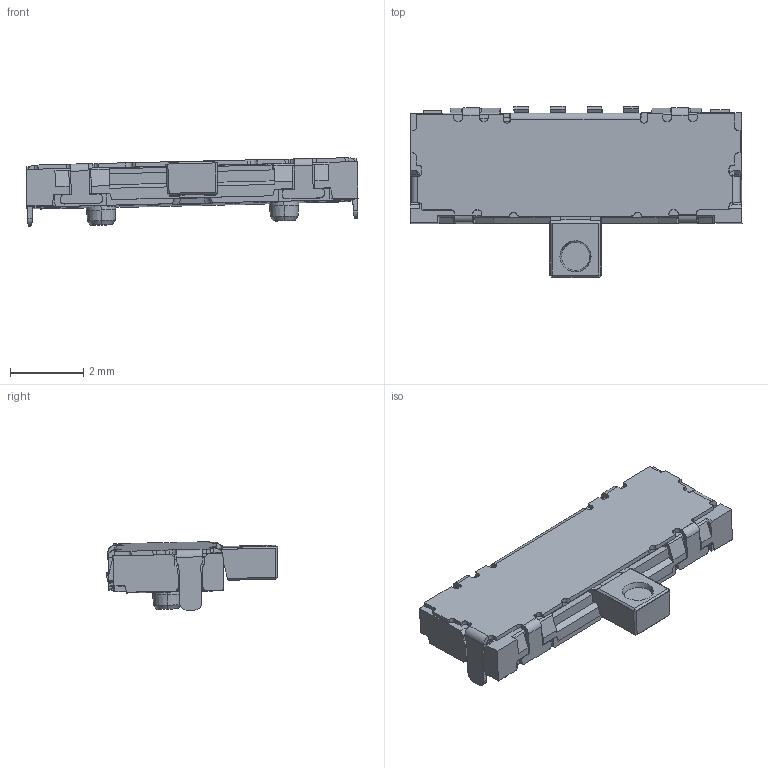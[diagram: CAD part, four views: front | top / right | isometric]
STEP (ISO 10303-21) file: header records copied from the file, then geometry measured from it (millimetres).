
FILE_DESCRIPTION (( 'STEP AP214' ), '1' );
FILE_NAME ('SSAG330200.STEP', '2011-04-22T06:04:32', ( ' ' ), ( '' ), 'SwSTEP 2.0', 'SolidWorks 2007', '' );
FILE_SCHEMA (( 'AUTOMOTIVE_DESIGN' ));
Length unit declared in the file: millimetre
Products named in the file (1): SSAG330200
Bounding box: 9.07 x 4.68 x 1.87 mm (x, y, z)
Volume: 31.4 mm3; surface area: 116.8 mm2
Topology: 1 solids, 1 shells, 714 faces, 1969 edges, 1269 vertices
Faces by surface type: plane 518, cylinder 170, cone 24, bspline 2
Entity records: 30658 total; most frequent: CARTESIAN_POINT 5203, ORIENTED_EDGE 3938, DIRECTION 3259, EDGE_CURVE 1969, VECTOR 1421, LINE 1421, VERTEX_POINT 1269, AXIS2_PLACEMENT_3D 919
